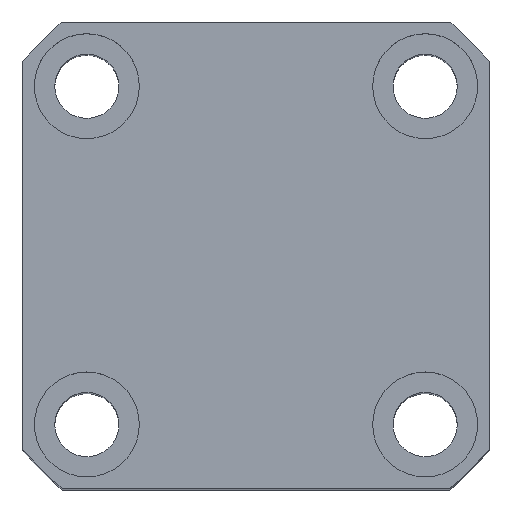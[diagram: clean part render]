
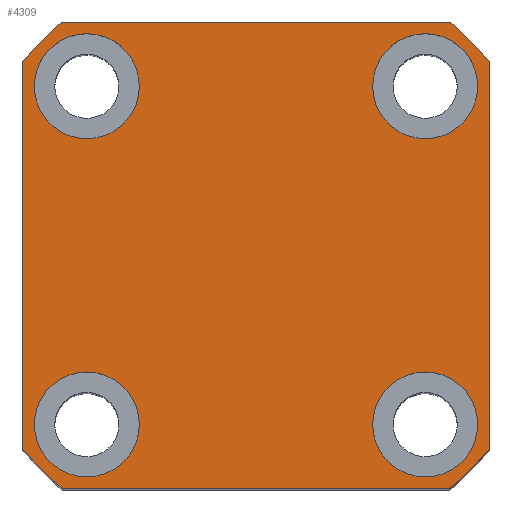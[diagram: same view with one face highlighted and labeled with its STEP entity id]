
A CAD part, top view. The second image highlights one B-rep face of the part: STEP entity #4309.
In plain terms, the highlighted planar face has unit normal (0, 0, 1).
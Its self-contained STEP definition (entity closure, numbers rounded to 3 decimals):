
#169 = DIRECTION ( 'NONE',  ( 0., 0., 1. ) ) ;
#319 = AXIS2_PLACEMENT_3D ( 'NONE', #5211, #2972, #5361 ) ;
#321 = CARTESIAN_POINT ( 'NONE',  ( -38., 29., 67.5 ) ) ;
#462 = EDGE_CURVE ( 'NONE', #8511, #4785, #2838, .T. ) ;
#523 = ORIENTED_EDGE ( 'NONE', *, *, #14407, .F. ) ;
#614 = DIRECTION ( 'NONE',  ( 1., 0., 0. ) ) ;
#786 = AXIS2_PLACEMENT_3D ( 'NONE', #5632, #10160, #13481 ) ;
#892 = EDGE_CURVE ( 'NONE', #11347, #1563, #9972, .T. ) ;
#1052 = CARTESIAN_POINT ( 'NONE',  ( -33.226, 40., 67.5 ) ) ;
#1363 = DIRECTION ( 'NONE',  ( 1., 0., 0. ) ) ;
#1437 = EDGE_CURVE ( 'NONE', #1702, #13640, #9083, .T. ) ;
#1531 = VECTOR ( 'NONE', #10969, 1000. ) ;
#1563 = VERTEX_POINT ( 'NONE', #11268 ) ;
#1642 = AXIS2_PLACEMENT_3D ( 'NONE', #2463, #169, #5842 ) ;
#1669 = AXIS2_PLACEMENT_3D ( 'NONE', #3947, #2990, #5082 ) ;
#1702 = VERTEX_POINT ( 'NONE', #7474 ) ;
#1714 = CARTESIAN_POINT ( 'NONE',  ( 29., -29., 67.5 ) ) ;
#1726 = EDGE_LOOP ( 'NONE', ( #2919, #8153 ) ) ;
#1909 = EDGE_CURVE ( 'NONE', #10215, #5481, #3743, .T. ) ;
#1967 = EDGE_LOOP ( 'NONE', ( #14151, #9976 ) ) ;
#1992 = DIRECTION ( 'NONE',  ( 0., 0., 1. ) ) ;
#2002 = CIRCLE ( 'NONE', #11829, 9. ) ;
#2026 = VERTEX_POINT ( 'NONE', #11040 ) ;
#2097 = CARTESIAN_POINT ( 'NONE',  ( -29., 29., 67.5 ) ) ;
#2463 = CARTESIAN_POINT ( 'NONE',  ( 0., 0., 67.5 ) ) ;
#2486 = ORIENTED_EDGE ( 'NONE', *, *, #1437, .T. ) ;
#2546 = VERTEX_POINT ( 'NONE', #7626 ) ;
#2616 = EDGE_LOOP ( 'NONE', ( #8880, #9178, #10805, #2486, #6612, #8658, #5506, #4934 ) ) ;
#2627 = EDGE_CURVE ( 'NONE', #2546, #1702, #9414, .T. ) ;
#2688 = EDGE_CURVE ( 'NONE', #10905, #5691, #12605, .T. ) ;
#2723 = DIRECTION ( 'NONE',  ( 0., 0., 1. ) ) ;
#2838 = CIRCLE ( 'NONE', #8325, 9. ) ;
#2882 = AXIS2_PLACEMENT_3D ( 'NONE', #1714, #2723, #11802 ) ;
#2919 = ORIENTED_EDGE ( 'NONE', *, *, #892, .F. ) ;
#2972 = DIRECTION ( 'NONE',  ( 0., 0., 1. ) ) ;
#2980 = CARTESIAN_POINT ( 'NONE',  ( -40., 33.226, 67.5 ) ) ;
#2990 = DIRECTION ( 'NONE',  ( 0., 0., 1. ) ) ;
#3141 = ORIENTED_EDGE ( 'NONE', *, *, #8424, .F. ) ;
#3159 = DIRECTION ( 'NONE',  ( 1., 0., 0. ) ) ;
#3600 = DIRECTION ( 'NONE',  ( 1., 0., 0. ) ) ;
#3717 = CARTESIAN_POINT ( 'NONE',  ( 38., -29., 67.5 ) ) ;
#3734 = FACE_OUTER_BOUND ( 'NONE', #2616, .T. ) ;
#3743 = CIRCLE ( 'NONE', #6996, 9. ) ;
#3846 = CIRCLE ( 'NONE', #1669, 9. ) ;
#3877 = CARTESIAN_POINT ( 'NONE',  ( -29., -29., 67.5 ) ) ;
#3887 = CARTESIAN_POINT ( 'NONE',  ( 38., 29., 67.5 ) ) ;
#3947 = CARTESIAN_POINT ( 'NONE',  ( 29., -29., 67.5 ) ) ;
#4046 = CARTESIAN_POINT ( 'NONE',  ( 40., -33.226, 67.5 ) ) ;
#4099 = VECTOR ( 'NONE', #6770, 1000. ) ;
#4309 = ADVANCED_FACE ( 'NONE', ( #9767, #7446, #4798, #5672, #3734 ), #11377, .T. ) ;
#4586 = DIRECTION ( 'NONE',  ( 0., 0., 1. ) ) ;
#4596 = LINE ( 'NONE', #2980, #1531 ) ;
#4635 = CARTESIAN_POINT ( 'NONE',  ( 40., 33.226, 67.5 ) ) ;
#4785 = VERTEX_POINT ( 'NONE', #13389 ) ;
#4798 = FACE_BOUND ( 'NONE', #1967, .T. ) ;
#4880 = VECTOR ( 'NONE', #12558, 1000. ) ;
#4934 = ORIENTED_EDGE ( 'NONE', *, *, #2688, .T. ) ;
#5082 = DIRECTION ( 'NONE',  ( 1., 0., 0. ) ) ;
#5088 = EDGE_CURVE ( 'NONE', #11517, #10905, #11766, .T. ) ;
#5172 = EDGE_CURVE ( 'NONE', #5481, #10215, #10382, .T. ) ;
#5211 = CARTESIAN_POINT ( 'NONE',  ( 29., 29., 67.5 ) ) ;
#5361 = DIRECTION ( 'NONE',  ( 1., 0., 0. ) ) ;
#5424 = CARTESIAN_POINT ( 'NONE',  ( 0., 0., 67.5 ) ) ;
#5481 = VERTEX_POINT ( 'NONE', #9396 ) ;
#5494 = EDGE_CURVE ( 'NONE', #13640, #11485, #11438, .T. ) ;
#5506 = ORIENTED_EDGE ( 'NONE', *, *, #5088, .T. ) ;
#5632 = CARTESIAN_POINT ( 'NONE',  ( 0., 0., 67.5 ) ) ;
#5672 = FACE_BOUND ( 'NONE', #12137, .T. ) ;
#5691 = VERTEX_POINT ( 'NONE', #13035 ) ;
#5768 = AXIS2_PLACEMENT_3D ( 'NONE', #11604, #5953, #13899 ) ;
#5842 = DIRECTION ( 'NONE',  ( 1., 0., 0. ) ) ;
#5953 = DIRECTION ( 'NONE',  ( 0., 0., 1. ) ) ;
#6118 = DIRECTION ( 'NONE',  ( 1., 0., 0. ) ) ;
#6180 = EDGE_CURVE ( 'NONE', #2026, #2546, #4596, .T. ) ;
#6181 = CARTESIAN_POINT ( 'NONE',  ( 20., 29., 67.5 ) ) ;
#6275 = CARTESIAN_POINT ( 'NONE',  ( -29., -29., 67.5 ) ) ;
#6278 = CARTESIAN_POINT ( 'NONE',  ( -20., -29., 67.5 ) ) ;
#6348 = CARTESIAN_POINT ( 'NONE',  ( 40., 33.226, 67.5 ) ) ;
#6612 = ORIENTED_EDGE ( 'NONE', *, *, #5494, .T. ) ;
#6770 = DIRECTION ( 'NONE',  ( -1., 0., 0. ) ) ;
#6893 = CARTESIAN_POINT ( 'NONE',  ( -29., 29., 67.5 ) ) ;
#6996 = AXIS2_PLACEMENT_3D ( 'NONE', #2097, #1992, #3159 ) ;
#7093 = EDGE_CURVE ( 'NONE', #1563, #11347, #3846, .T. ) ;
#7378 = CARTESIAN_POINT ( 'NONE',  ( -33.226, -40., 67.5 ) ) ;
#7445 = DIRECTION ( 'NONE',  ( 0., 0., 1. ) ) ;
#7446 = FACE_BOUND ( 'NONE', #13499, .T. ) ;
#7474 = CARTESIAN_POINT ( 'NONE',  ( -33.226, -40., 67.5 ) ) ;
#7626 = CARTESIAN_POINT ( 'NONE',  ( -40., -33.226, 67.5 ) ) ;
#7951 = VERTEX_POINT ( 'NONE', #6181 ) ;
#8011 = VECTOR ( 'NONE', #6118, 1000. ) ;
#8043 = CARTESIAN_POINT ( 'NONE',  ( 33.226, -40., 67.5 ) ) ;
#8113 = CIRCLE ( 'NONE', #9771, 9. ) ;
#8153 = ORIENTED_EDGE ( 'NONE', *, *, #7093, .F. ) ;
#8199 = DIRECTION ( 'NONE',  ( 0., 0., 1. ) ) ;
#8325 = AXIS2_PLACEMENT_3D ( 'NONE', #3877, #9531, #14031 ) ;
#8424 = EDGE_CURVE ( 'NONE', #12525, #7951, #12713, .T. ) ;
#8511 = VERTEX_POINT ( 'NONE', #6278 ) ;
#8658 = ORIENTED_EDGE ( 'NONE', *, *, #10033, .T. ) ;
#8837 = EDGE_CURVE ( 'NONE', #7951, #12525, #8113, .T. ) ;
#8880 = ORIENTED_EDGE ( 'NONE', *, *, #11558, .T. ) ;
#9083 = LINE ( 'NONE', #7378, #8011 ) ;
#9165 = CIRCLE ( 'NONE', #11538, 52. ) ;
#9178 = ORIENTED_EDGE ( 'NONE', *, *, #6180, .T. ) ;
#9213 = CARTESIAN_POINT ( 'NONE',  ( 0., 0., 67.5 ) ) ;
#9300 = CARTESIAN_POINT ( 'NONE',  ( 29., 29., 67.5 ) ) ;
#9396 = CARTESIAN_POINT ( 'NONE',  ( -20., 29., 67.5 ) ) ;
#9414 = CIRCLE ( 'NONE', #786, 52. ) ;
#9531 = DIRECTION ( 'NONE',  ( 0., 0., 1. ) ) ;
#9767 = FACE_BOUND ( 'NONE', #1726, .T. ) ;
#9771 = AXIS2_PLACEMENT_3D ( 'NONE', #9300, #10381, #3600 ) ;
#9857 = LINE ( 'NONE', #4635, #4880 ) ;
#9972 = CIRCLE ( 'NONE', #2882, 9. ) ;
#9976 = ORIENTED_EDGE ( 'NONE', *, *, #1909, .F. ) ;
#10033 = EDGE_CURVE ( 'NONE', #11485, #11517, #9857, .T. ) ;
#10160 = DIRECTION ( 'NONE',  ( 0., 0., 1. ) ) ;
#10215 = VERTEX_POINT ( 'NONE', #321 ) ;
#10381 = DIRECTION ( 'NONE',  ( 0., 0., 1. ) ) ;
#10382 = CIRCLE ( 'NONE', #10610, 9. ) ;
#10610 = AXIS2_PLACEMENT_3D ( 'NONE', #6893, #8199, #1363 ) ;
#10786 = ORIENTED_EDGE ( 'NONE', *, *, #8837, .F. ) ;
#10805 = ORIENTED_EDGE ( 'NONE', *, *, #2627, .T. ) ;
#10905 = VERTEX_POINT ( 'NONE', #10984 ) ;
#10969 = DIRECTION ( 'NONE',  ( 0., -1., 0. ) ) ;
#10984 = CARTESIAN_POINT ( 'NONE',  ( 33.226, 40., 67.5 ) ) ;
#11040 = CARTESIAN_POINT ( 'NONE',  ( -40., 33.226, 67.5 ) ) ;
#11268 = CARTESIAN_POINT ( 'NONE',  ( 20., -29., 67.5 ) ) ;
#11347 = VERTEX_POINT ( 'NONE', #3717 ) ;
#11377 = PLANE ( 'NONE',  #13755 ) ;
#11438 = CIRCLE ( 'NONE', #5768, 52. ) ;
#11485 = VERTEX_POINT ( 'NONE', #4046 ) ;
#11517 = VERTEX_POINT ( 'NONE', #6348 ) ;
#11538 = AXIS2_PLACEMENT_3D ( 'NONE', #5424, #13419, #12263 ) ;
#11558 = EDGE_CURVE ( 'NONE', #5691, #2026, #9165, .T. ) ;
#11604 = CARTESIAN_POINT ( 'NONE',  ( 0., 0., 67.5 ) ) ;
#11766 = CIRCLE ( 'NONE', #1642, 52. ) ;
#11802 = DIRECTION ( 'NONE',  ( 1., 0., 0. ) ) ;
#11829 = AXIS2_PLACEMENT_3D ( 'NONE', #6275, #7445, #614 ) ;
#12137 = EDGE_LOOP ( 'NONE', ( #3141, #10786 ) ) ;
#12263 = DIRECTION ( 'NONE',  ( 1., 0., 0. ) ) ;
#12500 = DIRECTION ( 'NONE',  ( 1., 0., 0. ) ) ;
#12525 = VERTEX_POINT ( 'NONE', #3887 ) ;
#12558 = DIRECTION ( 'NONE',  ( 0., 1., 0. ) ) ;
#12605 = LINE ( 'NONE', #1052, #4099 ) ;
#12713 = CIRCLE ( 'NONE', #319, 9. ) ;
#13035 = CARTESIAN_POINT ( 'NONE',  ( -33.226, 40., 67.5 ) ) ;
#13389 = CARTESIAN_POINT ( 'NONE',  ( -38., -29., 67.5 ) ) ;
#13419 = DIRECTION ( 'NONE',  ( 0., 0., 1. ) ) ;
#13481 = DIRECTION ( 'NONE',  ( 1., 0., 0. ) ) ;
#13499 = EDGE_LOOP ( 'NONE', ( #14489, #523 ) ) ;
#13640 = VERTEX_POINT ( 'NONE', #8043 ) ;
#13755 = AXIS2_PLACEMENT_3D ( 'NONE', #9213, #4586, #12500 ) ;
#13899 = DIRECTION ( 'NONE',  ( 1., 0., 0. ) ) ;
#14031 = DIRECTION ( 'NONE',  ( 1., 0., 0. ) ) ;
#14151 = ORIENTED_EDGE ( 'NONE', *, *, #5172, .F. ) ;
#14407 = EDGE_CURVE ( 'NONE', #4785, #8511, #2002, .T. ) ;
#14489 = ORIENTED_EDGE ( 'NONE', *, *, #462, .F. ) ;
